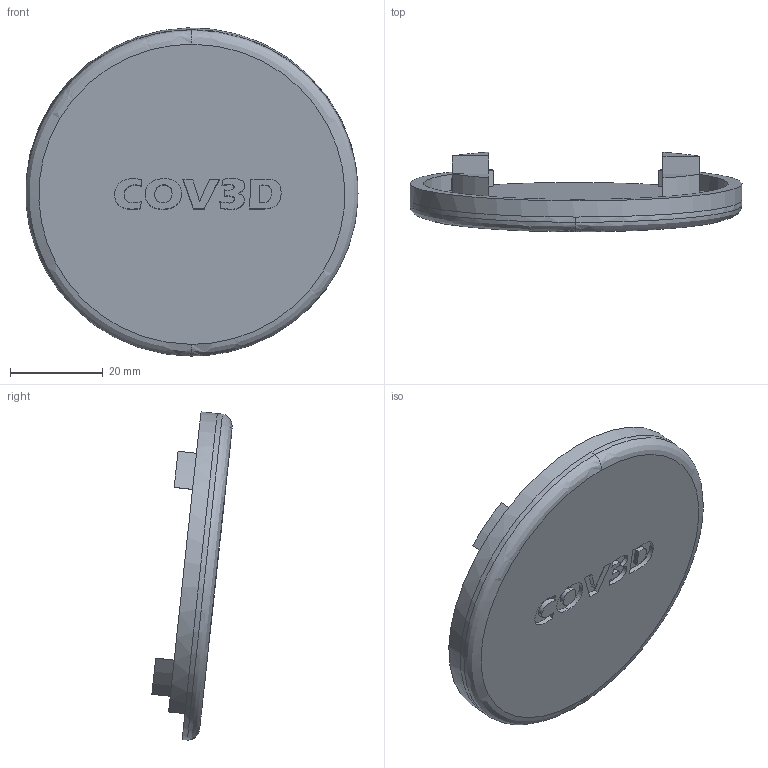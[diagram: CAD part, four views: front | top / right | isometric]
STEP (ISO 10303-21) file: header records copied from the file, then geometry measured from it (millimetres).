
FILE_DESCRIPTION(/* description */ (''),/* implementation_level */ '2;1');
FILE_NAME(/* name */ 'XL-MED~1',/* time_stamp */ '2020-04-10T21:49:31+03:00',/* author */ (''),/* organization */ (''),/* preprocessor_version */ 'ST-DEVELOPER v16.5',/* originating_system */ '',/* authorisation */ '');
FILE_SCHEMA (('AUTOMOTIVE_DESIGN'));
Length unit declared in the file: millimetre
Products named in the file (1): Document
Bounding box: 71.45 x 17.28 x 70.64 mm (x, y, z)
Volume: 16313.9 mm3; surface area: 10682 mm2
Topology: 1 solids, 1 shells, 67 faces, 158 edges, 104 vertices
Faces by surface type: bspline 44, plane 23
Entity records: 2836 total; most frequent: CARTESIAN_POINT 1768, ORIENTED_EDGE 316, EDGE_CURVE 158, B_SPLINE_CURVE_WITH_KNOTS 131, VERTEX_POINT 104, EDGE_LOOP 78, ADVANCED_FACE 67, FACE_OUTER_BOUND 67
